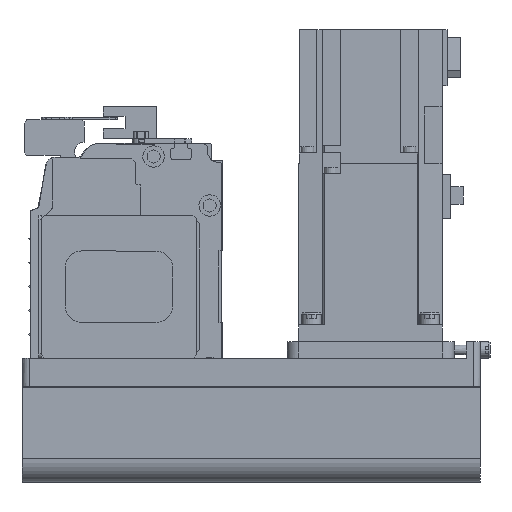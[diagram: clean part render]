
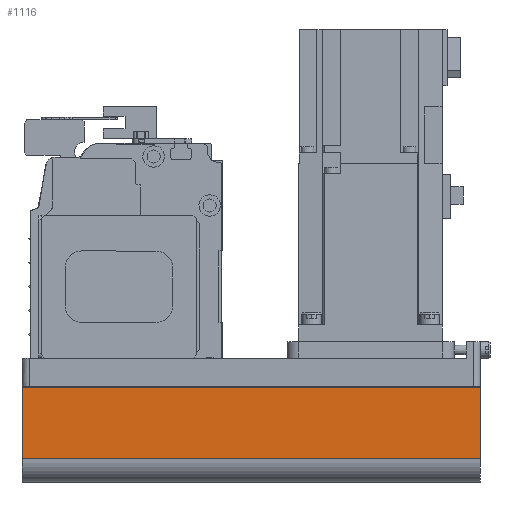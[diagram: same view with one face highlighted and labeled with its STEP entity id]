
A CAD part, left-side view. The second image highlights one B-rep face of the part: STEP entity #1116.
In plain terms, the highlighted planar face has unit normal (-1, 0, 0) as drawn and (0, 1, 0) by its records, which use the part's own axes.
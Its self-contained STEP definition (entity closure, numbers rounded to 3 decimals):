
#1116 = ADVANCED_FACE( '', ( #2818 ), #2819, .T. );
#2818 = FACE_OUTER_BOUND( '', #5330, .T. );
#2819 = PLANE( '', #5331 );
#5330 = EDGE_LOOP( '', ( #8322, #8323, #8324, #8325 ) );
#5331 = AXIS2_PLACEMENT_3D( '', #8326, #8327, #8328 );
#8322 = ORIENTED_EDGE( '', *, *, #14575, .F. );
#8323 = ORIENTED_EDGE( '', *, *, #14576, .F. );
#8324 = ORIENTED_EDGE( '', *, *, #14577, .T. );
#8325 = ORIENTED_EDGE( '', *, *, #14578, .T. );
#8326 = CARTESIAN_POINT( '', ( -192., 40., -42. ) );
#8327 = DIRECTION( '', ( 0., 1., 0. ) );
#8328 = DIRECTION( '', ( 0., 0., 1. ) );
#14575 = EDGE_CURVE( '', #17489, #17490, #17491, .T. );
#14576 = EDGE_CURVE( '', #17492, #17489, #17493, .T. );
#14577 = EDGE_CURVE( '', #17492, #17426, #17494, .T. );
#14578 = EDGE_CURVE( '', #17426, #17490, #17495, .T. );
#17426 = VERTEX_POINT( '', #21440 );
#17489 = VERTEX_POINT( '', #21527 );
#17490 = VERTEX_POINT( '', #21528 );
#17491 = LINE( '', #21529, #21530 );
#17492 = VERTEX_POINT( '', #21531 );
#17493 = LINE( '', #21532, #21533 );
#17494 = LINE( '', #21534, #21535 );
#17495 = LINE( '', #21536, #21537 );
#21440 = CARTESIAN_POINT( '', ( -192., 40., -12.1 ) );
#21527 = CARTESIAN_POINT( '', ( 0., 40., -42. ) );
#21528 = CARTESIAN_POINT( '', ( 0., 40., -12.1 ) );
#21529 = CARTESIAN_POINT( '', ( 0., 40., -42. ) );
#21530 = VECTOR( '', #25990, 1000. );
#21531 = CARTESIAN_POINT( '', ( -192., 40., -42. ) );
#21532 = CARTESIAN_POINT( '', ( -192., 40., -42. ) );
#21533 = VECTOR( '', #25991, 1000. );
#21534 = CARTESIAN_POINT( '', ( -192., 40., -42. ) );
#21535 = VECTOR( '', #25992, 1000. );
#21536 = CARTESIAN_POINT( '', ( -192., 40., -12.1 ) );
#21537 = VECTOR( '', #25993, 1000. );
#25990 = DIRECTION( '', ( 0., 0., 1. ) );
#25991 = DIRECTION( '', ( 1., 0., 0. ) );
#25992 = DIRECTION( '', ( 0., 0., 1. ) );
#25993 = DIRECTION( '', ( 1., 0., 0. ) );
